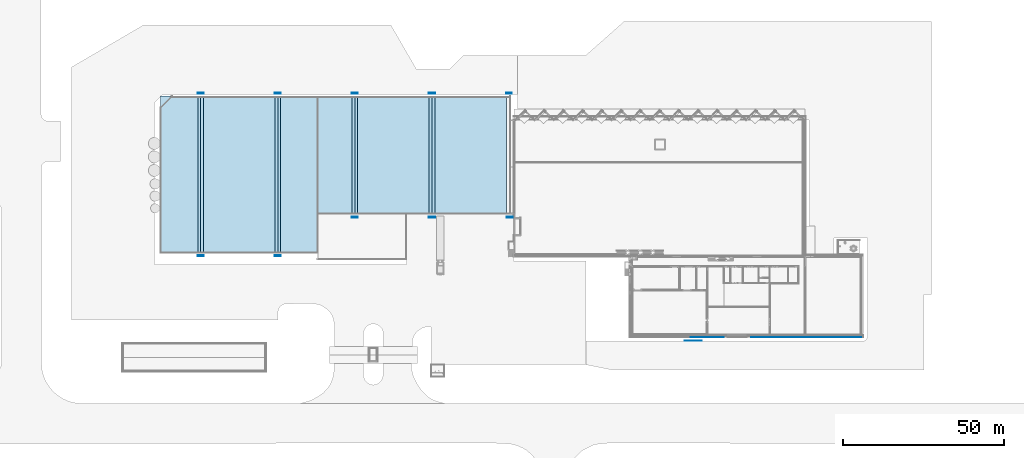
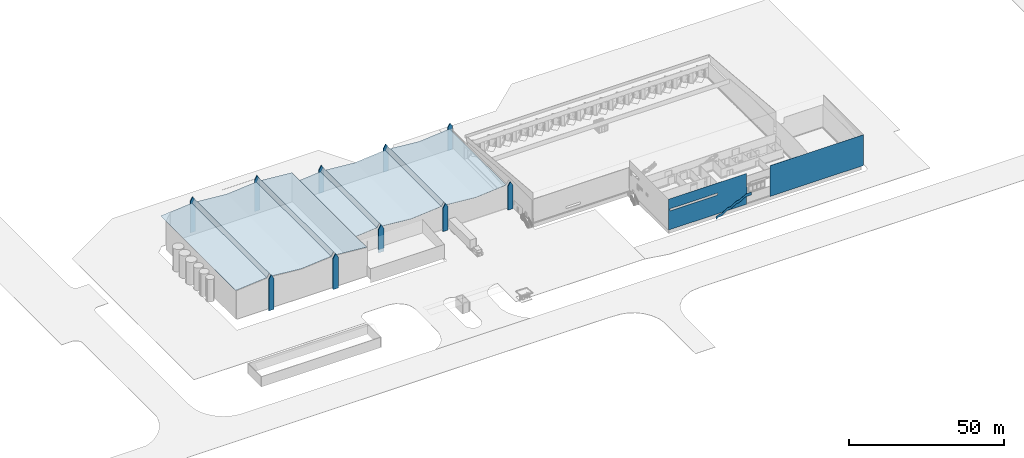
# One storey, part 55 of 64: 6 walls, 2 roofs.
"""IFC2X3 building model written with IfcOpenShell, lengths in millimetres."""

from ifc_helpers import new_model, entity, si_unit, converted_unit, derived_unit, direction, frame, origin, place, context, subcontext, project, spatial, faceted_brep, material, type_object, element, save


model = new_model("IFC2X3")

# Units and contexts
model_context = context("Model", 3, precision=0.01, world=origin(), true_north=direction((4.05803320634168e-15, -1.0)))
body_context = subcontext(model_context, "Body", "Model", "MODEL_VIEW")
ifc_project = project(units=[si_unit("LENGTHUNIT", "METRE", prefix="MILLI"), si_unit("AREAUNIT", "SQUARE_METRE"), si_unit("VOLUMEUNIT", "CUBIC_METRE"), converted_unit("PLANEANGLEUNIT", "DEGREE", entity("IfcRatioMeasure", 0.0174532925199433), si_unit("PLANEANGLEUNIT", "RADIAN"), dimensions=[0, 0, 0, 0, 0, 0, 0]), si_unit("MASSUNIT", "GRAM", prefix="KILO"), derived_unit("MASSDENSITYUNIT", [(si_unit("MASSUNIT", "GRAM", prefix="KILO"), 1), (si_unit("LENGTHUNIT", "METRE"), -3)]), si_unit("TIMEUNIT", "SECOND"), si_unit("FREQUENCYUNIT", "HERTZ"), si_unit("THERMODYNAMICTEMPERATUREUNIT", "DEGREE_CELSIUS"), derived_unit("THERMALTRANSMITTANCEUNIT", [(si_unit("MASSUNIT", "GRAM", prefix="KILO"), 1), (si_unit("THERMODYNAMICTEMPERATUREUNIT", "KELVIN"), -1), (si_unit("TIMEUNIT", "SECOND"), -3)]), derived_unit("VOLUMETRICFLOWRATEUNIT", [(si_unit("LENGTHUNIT", "METRE"), 3), (si_unit("TIMEUNIT", "SECOND"), -1)]), si_unit("ELECTRICCURRENTUNIT", "AMPERE"), si_unit("ELECTRICVOLTAGEUNIT", "VOLT"), si_unit("POWERUNIT", "WATT"), si_unit("FORCEUNIT", "NEWTON", prefix="KILO"), si_unit("ILLUMINANCEUNIT", "LUX"), si_unit("LUMINOUSFLUXUNIT", "LUMEN"), si_unit("LUMINOUSINTENSITYUNIT", "CANDELA"), derived_unit("USERDEFINED", [(si_unit("MASSUNIT", "GRAM", prefix="KILO"), -1), (si_unit("LENGTHUNIT", "METRE"), -2), (si_unit("TIMEUNIT", "SECOND"), 3), (si_unit("LUMINOUSFLUXUNIT", "LUMEN"), 1)]), derived_unit("LINEARVELOCITYUNIT", [(si_unit("LENGTHUNIT", "METRE"), 1), (si_unit("TIMEUNIT", "SECOND"), -1)]), si_unit("PRESSUREUNIT", "PASCAL"), derived_unit("USERDEFINED", [(si_unit("LENGTHUNIT", "METRE"), -2), (si_unit("MASSUNIT", "GRAM", prefix="KILO"), 1), (si_unit("TIMEUNIT", "SECOND"), -2)])], contexts=[model_context])

# Site, building, storey
site_placement = place(None, frame((927466.849349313, 583801.882853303, 0.0), z_axis=(0.0, 0.0, 1.0), x_axis=(-1.0, 0.0, 0.0)))
site = spatial("IfcSite", under=ifc_project, at=site_placement, Name="Surface", CompositionType="ELEMENT")
building_placement = place(site_placement, origin())
building = spatial("IfcBuilding", under=site, at=building_placement, CompositionType="ELEMENT")
storey_placement = place(building_placement, frame((0.0, 0.0, 44170.0)))
storey = spatial("IfcBuildingStorey", under=building, at=storey_placement, Name="Ground FFL", CompositionType="ELEMENT", Elevation=44170.0)

# Walls
ifc_material_1 = material(Name="Orange")
wall_type_1 = type_object("IfcWallType", Name="Basic Wall:Orange wide", PredefinedType="NOTDEFINED")
wall_1_placement = place(storey_placement, frame((53763.0614261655, 11782.6738606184, 0.0), z_axis=(0.0, 0.0, 1.0), x_axis=(-1.0, 0.0, 0.0)))
element("IfcWall", 1, at=wall_1_placement, inside=storey, type_object=wall_type_1, material=ifc_material_1, Name="Basic Wall:Orange wide", ObjectType="Basic Wall:Orange wide", context=body_context, shape_type="Brep", body=[
    faceted_brep([(1900.0, -150.0, 0.0), (1900.0, -150.0, 12267.7813051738), (950.0, -150.0, 13913.2295723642), (0.0, -150.0, 12267.7813051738), (0.0, -150.0, 0.0), (0.0, 150.0, 0.0), (1900.0, 150.0, 0.0), (1900.0, 150.0, 12267.7813051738), (950.0, 150.0, 13913.2295723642), (0.0, 150.0, 12267.7813051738)], [[[0, 1, 2, 3, 4]], [[0, 4, 5, 6]], [[2, 1, 7, 8]], [[3, 2, 8, 9]], [[1, 0, 6, 7]], [[4, 3, 9, 5]], [[6, 5, 9, 8, 7]]]),
    faceted_brep([(24965.5222976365, 150.0, 13913.2295723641), (25915.5222976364, 150.0, 12267.7813051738), (25915.5222976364, 150.0, 0.0), (24015.5222976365, 150.0, 0.0), (24015.5222976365, 150.0, 12267.7813051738), (24965.5222976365, -150.0, 13913.2295723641), (25915.5222976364, -150.0, 12267.7813051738), (24015.5222976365, -150.0, 12267.7813051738), (24015.5222976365, -150.0, 0.0), (25915.5222976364, -150.0, 0.0)], [[[0, 1, 2, 3, 4]], [[5, 6, 1, 0]], [[7, 5, 0, 4]], [[8, 7, 4, 3]], [[9, 8, 3, 2]], [[6, 9, 2, 1]], [[5, 7, 8, 9, 6]]]),
])
wall_2_placement = place(storey_placement, frame((5792.6188476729, -333.364619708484, -1300.0), z_axis=(0.0, 0.0, 1.0), x_axis=(-1.0, 0.0, 0.0)))
element("IfcWall", 2, at=wall_2_placement, inside=storey, type_object=wall_type_1, material=ifc_material_1, Name="Basic Wall:Orange wide", ObjectType="Basic Wall:Orange wide", context=body_context, shape_type="Brep", body=[
    faceted_brep([(1900.0, -150.0, 0.0), (1900.0, -150.0, 9207.78130517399), (950.0, -150.0, 10853.2295723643), (0.0, -150.0, 9207.78130517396), (0.0, -150.0, 0.0), (0.0, 150.0, 0.0), (1900.0, 150.0, 0.0), (1900.0, 150.0, 9207.78130517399), (950.0, 150.0, 10853.2295723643), (0.0, 150.0, 9207.78130517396)], [[[0, 1, 2, 3, 4]], [[0, 4, 5, 6]], [[2, 1, 7, 8]], [[3, 2, 8, 9]], [[1, 0, 6, 7]], [[4, 3, 9, 5]], [[6, 5, 9, 8, 7]]]),
    faceted_brep([(49136.2311651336, 150.0, 10869.6840550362), (50092.193320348, 150.0, 9213.90903209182), (50092.193320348, 150.0, 0.0), (48192.1933203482, 150.0, 0.0), (48192.1933203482, 150.0, 9234.56254359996), (48192.1933203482, -150.0, 9234.56254359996), (49136.2311651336, -150.0, 10869.6840550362), (48192.1933203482, -150.0, 0.0), (50092.193320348, -150.0, 0.0), (50092.193320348, -150.0, 9213.90903209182)], [[[0, 1, 2, 3, 4]], [[5, 6, 0, 4]], [[7, 5, 4, 3]], [[8, 7, 3, 2]], [[9, 8, 2, 1]], [[6, 9, 1, 0]], [[6, 5, 7, 8, 9]]]),
    faceted_brep([(24966.7647407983, -150.0, 10869.6840550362), (25922.7268960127, -150.0, 9213.90903209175), (25922.7268960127, 150.0, 9213.90903209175), (24966.7647407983, 150.0, 10869.6840550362), (24022.7268960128, -150.0, 9234.56254359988), (24022.7268960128, 150.0, 9234.56254359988), (24022.7268960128, -150.0, 0.0), (24022.7268960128, 150.0, 0.0), (25922.7268960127, -150.0, 0.0), (25922.7268960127, 150.0, 0.0)], [[[0, 1, 2, 3]], [[4, 0, 3, 5]], [[6, 4, 5, 7]], [[8, 6, 7, 9]], [[1, 8, 9, 2]], [[3, 2, 9, 7, 5]], [[0, 4, 6, 8, 1]]]),
])
wall_3_placement = place(storey_placement, frame((53763.0614261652, -38887.3261393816, 0.0), z_axis=(0.0, 0.0, 1.0), x_axis=(-1.0, 0.0, 0.0)))
element("IfcWall", 3, at=wall_3_placement, inside=storey, type_object=wall_type_1, material=ifc_material_1, Name="Basic Wall:Orange wide", ObjectType="Basic Wall:Orange wide", context=body_context, shape_type="Brep", body=[
    faceted_brep([(1900.0, -150.0, 0.0), (1900.0, -150.0, 12267.7813051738), (950.0, -150.0, 13913.2295723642), (0.0, -150.0, 12267.7813051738), (0.0, -150.0, 0.0), (0.0, 150.0, 0.0), (1900.0, 150.0, 0.0), (1900.0, 150.0, 12267.7813051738), (950.0, 150.0, 13913.2295723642), (0.0, 150.0, 12267.7813051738)], [[[0, 1, 2, 3, 4]], [[0, 4, 5, 6]], [[2, 1, 7, 8]], [[3, 2, 8, 9]], [[1, 0, 6, 7]], [[4, 3, 9, 5]], [[6, 5, 9, 8, 7]]]),
    faceted_brep([(24965.5222976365, 150.0, 13913.2295723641), (25915.5222976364, 150.0, 12267.7813051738), (25915.5222976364, 150.0, 0.0), (24015.5222976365, 150.0, 0.0), (24015.5222976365, 150.0, 12267.7813051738), (24965.5222976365, -150.0, 13913.2295723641), (25915.5222976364, -150.0, 12267.7813051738), (24015.5222976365, -150.0, 12267.7813051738), (24015.5222976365, -150.0, 0.0), (25915.5222976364, -150.0, 0.0)], [[[0, 1, 2, 3, 4]], [[5, 6, 1, 0]], [[7, 5, 0, 4]], [[8, 7, 4, 3]], [[9, 8, 3, 2]], [[6, 9, 2, 1]], [[5, 7, 8, 9, 6]]]),
])
wall_4_placement = place(storey_placement, frame((5799.46738516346, -38887.3261393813, -1300.0), z_axis=(0.0, 0.0, 1.0), x_axis=(-1.0, 0.0, 0.0)))
element("IfcWall", 4, at=wall_4_placement, inside=storey, type_object=wall_type_1, material=ifc_material_1, Name="Basic Wall:Orange wide", ObjectType="Basic Wall:Orange wide", context=body_context, shape_type="Brep", body=[
    faceted_brep([(25937.4061608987, -150.0, 0.0), (25937.4061608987, -150.0, 9200.34581438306), (24987.4061608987, -150.0, 10845.7940815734), (24037.4061608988, -150.0, 9200.34581438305), (24037.4061608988, -150.0, 0.0), (24037.4061608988, 150.0, 0.0), (25937.4061608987, 150.0, 0.0), (25937.4061608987, 150.0, 9200.34581438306), (24987.4061608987, 150.0, 10845.7940815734), (24037.4061608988, 150.0, 9200.34581438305)], [[[0, 1, 2, 3, 4]], [[0, 4, 5, 6]], [[2, 1, 7, 8]], [[3, 2, 8, 9]], [[1, 0, 6, 7]], [[4, 3, 9, 5]], [[6, 5, 9, 8, 7]]]),
    faceted_brep([(48966.5146438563, 150.0, 10684.8130327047), (49866.5232199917, 150.0, 9125.95245159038), (49866.5232199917, 150.0, 0.0), (48036.4962136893, 150.0, 0.0), (48036.4962136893, 150.0, 9073.97385967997), (48966.5146438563, -150.0, 10684.8130327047), (49866.5232199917, -150.0, 9125.95245159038), (49866.5232199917, -150.0, 0.0), (48036.4962136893, -150.0, 0.0), (48036.4962136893, -150.0, 9073.97385967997)], [[[0, 1, 2, 3, 4]], [[5, 6, 1, 0]], [[7, 8, 3, 2]], [[6, 7, 2, 1]], [[9, 5, 0, 4]], [[8, 9, 4, 3]], [[5, 9, 8, 7, 6]]]),
    faceted_brep([(1900.0, -150.0, 9200.34581438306), (1900.0, -150.0, 0.0), (1900.0, 150.0, 0.0), (1900.0, 150.0, 9200.34581438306), (950.0, -150.0, 10845.7940815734), (950.0, 150.0, 10845.7940815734), (0.0, -150.0, 9200.34581438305), (0.0, 150.0, 9200.34581438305), (0.0, -150.0, 0.0), (0.0, 150.0, 0.0)], [[[0, 1, 2, 3]], [[4, 0, 3, 5]], [[6, 4, 5, 7]], [[8, 6, 7, 9]], [[1, 8, 9, 2]], [[2, 9, 7, 5, 3]], [[1, 0, 4, 6, 8]]]),
])
ifc_material_2 = material(Name="Cladding(2)")
wall_type_2 = type_object("IfcWallType", Name="Basic Wall:Cladding 3", PredefinedType="NOTDEFINED")
wall_5_placement = place(storey_placement, frame((-153476.690247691, 37046.0854127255, 0.0)))
element("IfcWall", 5, at=wall_5_placement, inside=storey, type_object=wall_type_2, material=ifc_material_2, Name="Basic Wall:Cladding 3", ObjectType="Basic Wall:Cladding 3", context=body_context, shape_type="Brep", body=[
    faceted_brep([(0.0, -19.0, 0.0), (38.0, -19.0, 0.0), (34866.289531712, -19.0, 0.0), (34866.289531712, -19.0, 12150.0), (0.0, -19.0, 12150.0), (0.0, 19.0, 12150.0), (0.0, 19.0, 0.0), (34866.289531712, 19.0, 0.0), (34866.289531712, -17.8076615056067, 0.0), (34866.289531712, 19.0, 12150.0)], [[[0, 1, 2, 3, 4]], [[0, 4, 5, 6]], [[2, 1, 0, 6, 7, 8]], [[3, 2, 8, 7, 9]], [[4, 3, 9, 5]], [[6, 5, 9, 7]]]),
    faceted_brep([(72714.0984678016, 19.0, 12150.0), (72714.0984678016, 19.0, 0.0), (43558.8183029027, 19.0, 0.0), (43558.8183029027, 19.0, 4000.0), (43508.8183029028, 19.0, 4000.0), (43508.8183029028, 19.0, 6859.35796848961), (43558.8183029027, 19.0, 6859.35796848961), (43558.8183029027, 19.0, 12150.0), (54389.8836050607, 19.0, 8200.0), (54389.8836050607, 19.0, 7400.0), (72178.0, 19.0, 7400.0), (72178.0, 19.0, 8200.0), (72714.0984678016, -19.0, 12150.0), (72714.0984678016, -19.0, 0.0), (43558.8183029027, -19.0, 12150.0), (54389.8836050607, -19.0, 7400.0), (72178.0, -19.0, 7400.0), (54389.8836050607, -19.0, 8200.0), (72178.0, -19.0, 8200.0), (43558.8183029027, -19.0, 0.0), (43558.8183029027, -19.0, 4000.0), (43558.8183029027, -17.8076615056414, 4000.0), (43558.8183029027, -17.8076615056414, 0.0), (43558.8183029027, -19.0, 6859.35796848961), (43558.8183029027, -17.8076615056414, 6859.35796848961), (43508.8183029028, -19.0, 4000.0), (43508.8183029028, -19.0, 6859.35796848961), (43508.8183029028, -17.8076615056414, 6859.35796848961), (43508.8183029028, -17.8076615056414, 4000.0), (72676.0984678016, -19.0, 0.0)], [[[0, 1, 2, 3, 4, 5, 6, 7], [8, 9, 10, 11]], [[12, 13, 1, 0]], [[14, 12, 0, 7]], [[15, 16, 10, 9]], [[17, 15, 9, 8]], [[18, 17, 8, 11]], [[16, 18, 11, 10]], [[19, 20, 21, 3, 2, 22]], [[23, 14, 7, 6, 24]], [[25, 26, 27, 5, 4, 28]], [[13, 29, 19, 22, 2, 1]], [[25, 28, 4, 3, 21, 20]], [[23, 24, 6, 5, 27, 26]], [[12, 14, 23, 26, 25, 20, 19, 29, 13], [17, 18, 16, 15]]]),
])
ifc_material_3 = material(Name="Aluminum, Anodized Silver")
wall_type_3 = type_object("IfcWallType", Name="Basic Wall:Orange", PredefinedType="NOTDEFINED")
wall_6_placement = place(storey_placement, frame((-111117.871944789, 38209.2777512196, -1115.79987716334)))
element("IfcWall", 6, at=wall_6_placement, inside=storey, type_object=wall_type_3, material=ifc_material_3, Name="Basic Wall:Orange", ObjectType="Basic Wall:Orange", context=body_context, shape_type="Brep", body=[
    faceted_brep([(13287.5, -19.0, 0.0), (13287.4999999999, -19.0, 1031.05450679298), (12220.0, -19.0, 1693.29987716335), (11290.0, -19.0, 1693.29987716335), (8860.0, -19.0, 3200.79987716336), (7930.0, -19.0, 3200.79987716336), (5500.0, -19.0, 4708.29987716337), (4570.0, -19.0, 4708.29987716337), (2140.0, -19.0, 6215.79987716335), (0.0, -19.0, 6215.79987716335), (0.0, -19.0, 5115.79987716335), (2251.13601890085, -19.0, 5115.79987716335), (4600.53900397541, -19.0, 3658.29987716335), (5530.53900397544, -19.0, 3658.29987716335), (7960.53900397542, -19.0, 2150.79987716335), (8890.53900397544, -19.0, 2150.79987716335), (11320.5390039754, -19.0, 643.299877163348), (12250.5390039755, -19.0, 643.299877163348), (13287.5, 19.0, 0.0), (12250.5390039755, 19.0, 643.299877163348), (11320.5390039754, 19.0, 643.299877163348), (8890.53900397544, 19.0, 2150.79987716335), (7960.53900397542, 19.0, 2150.79987716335), (5530.53900397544, 19.0, 3658.29987716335), (4600.53900397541, 19.0, 3658.29987716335), (2251.13601890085, 19.0, 5115.79987716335), (0.0, 19.0, 5115.79987716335), (0.0, 19.0, 6215.79987716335), (2140.0, 19.0, 6215.79987716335), (4570.0, 19.0, 4708.29987716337), (5500.0, 19.0, 4708.29987716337), (7930.0, 19.0, 3200.79987716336), (8860.0, 19.0, 3200.79987716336), (11290.0, 19.0, 1693.29987716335), (12220.0, 19.0, 1693.29987716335), (13287.4999999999, 19.0, 1031.05450679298)], [[[0, 1, 2, 3, 4, 5, 6, 7, 8, 9, 10, 11, 12, 13, 14, 15, 16, 17]], [[18, 19, 20, 21, 22, 23, 24, 25, 26, 27, 28, 29, 30, 31, 32, 33, 34, 35]], [[1, 0, 18, 35]], [[2, 1, 35, 34]], [[3, 2, 34, 33]], [[4, 3, 33, 32]], [[5, 4, 32, 31]], [[6, 5, 31, 30]], [[7, 6, 30, 29]], [[8, 7, 29, 28]], [[9, 8, 28, 27]], [[10, 9, 27, 26]], [[11, 10, 26, 25]], [[12, 11, 25, 24]], [[13, 12, 24, 23]], [[14, 13, 23, 22]], [[15, 14, 22, 21]], [[16, 15, 21, 20]], [[17, 16, 20, 19]], [[0, 17, 19, 18]]]),
])

# Roofs
ifc_material_4 = material(Name="Aluminum")
roof_1_placement = place(storey_placement, frame((16451.5278414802, -37947.3261393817, 11188.1329101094)))
element("IfcRoof", 7, at=roof_1_placement, inside=storey, material=ifc_material_4, Name="Basic Roof:50", ObjectType="Basic Roof:50", ShapeType="NOTDEFINED", context=body_context, shape_type="Brep", body=[
    faceted_brep([(48870.8639401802, 0.0, 70.6888564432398), (37226.7052561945, 0.0, 1089.42073758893), (36380.9990294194, 0.0, 2554.2268906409), (35534.5049702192, 0.0, 1088.05617180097), (24213.0209171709, 0.0, 97.554662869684), (13245.4098607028, 0.0, 1057.09629627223), (12381.0237438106, 0.0, 2554.25696808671), (11516.623514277, 0.0, 1057.07185246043), (0.0, 0.0, 50.1907297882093), (0.0, 0.0, 0.0), (11546.9096596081, 0.0, 1009.52899493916), (12381.0237438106, 0.0, 2454.25696808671), (13215.1227667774, 0.0, 1009.55508176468), (24213.0209171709, 0.0, 47.3636709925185), (35564.7920641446, 0.0, 1040.51495729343), (36380.9990294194, 0.0, 2454.2268906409), (37196.4181622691, 0.0, 1041.87952308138), (48870.8639401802, 0.0, 20.4978645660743), (48870.8639401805, 48480.1750456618, 70.6888564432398), (48870.8639401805, 48480.1750456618, 20.4978645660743), (37196.4181622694, 48480.1750456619, 1041.87952308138), (36380.9990294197, 48480.1750456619, 2454.2268906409), (35564.7920641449, 48480.1750456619, 1040.51495729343), (24213.0209171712, 48480.1750456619, 47.3636709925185), (13215.1227667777, 48480.175045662, 1009.55508176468), (12381.0237438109, 48480.175045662, 2454.25696808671), (11546.9096596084, 48480.175045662, 1009.52899493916), (0.0, 48480.1750456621, 0.0), (0.0, 48480.1750456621, 50.1907297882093), (11516.6235142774, 48480.175045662, 1057.07185246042), (12381.0237438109, 48480.175045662, 2554.25696808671), (13245.4098607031, 48480.175045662, 1057.09629627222), (24213.0209171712, 48480.1750456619, 97.554662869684), (35534.5049702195, 48480.1750456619, 1088.05617180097), (36380.9990294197, 48480.1750456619, 2554.2268906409), (37226.7052561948, 48480.1750456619, 1089.42073758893)], [[[0, 1, 2, 3, 4, 5, 6, 7, 8, 9, 10, 11, 12, 13, 14, 15, 16, 17]], [[18, 19, 20, 21, 22, 23, 24, 25, 26, 27, 28, 29, 30, 31, 32, 33, 34, 35]], [[1, 0, 18, 35]], [[2, 1, 35, 34]], [[3, 2, 34, 33]], [[4, 3, 33, 32]], [[5, 4, 32, 31]], [[6, 5, 31, 30]], [[7, 6, 30, 29]], [[8, 7, 29, 28]], [[9, 8, 28, 27]], [[10, 9, 27, 26]], [[11, 10, 26, 25]], [[12, 11, 25, 24]], [[13, 12, 24, 23]], [[14, 13, 23, 22]], [[15, 14, 22, 21]], [[16, 15, 21, 20]], [[17, 16, 20, 19]], [[0, 17, 19, 18]]]),
])
roof_2_placement = place(storey_placement, frame((-42429.7182035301, -37947.3261393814, 6863.3570690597)))
element("IfcRoof", 8, at=roof_2_placement, inside=storey, material=ifc_material_4, Name="Basic Roof:50", ObjectType="Basic Roof:50", ShapeType="NOTDEFINED", context=body_context, shape_type="Brep", body=[
    faceted_brep([(58824.5924146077, 0.0, 88.4482084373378), (48126.8283360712, 0.0, 1024.38129038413), (47262.4723848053, 0.0, 2521.48971380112), (46398.1520249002, 0.0, 1024.44293642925), (35262.4013426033, 0.0, 50.1909918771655), (24126.8080094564, 0.0, 1024.42917016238), (23262.4733003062, 0.0, 2521.50080115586), (22397.7005586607, 0.0, 1023.67047562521), (11271.4375086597, 0.0, 50.9179829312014), (0.0, 0.0, 1035.37157040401), (0.0, 0.0, 985.181223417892), (11271.4396989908, 0.0, 0.727444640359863), (22427.9867039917, 0.0, 976.127618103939), (23262.4733003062, 0.0, 2421.50080115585), (24096.520915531, 0.0, 976.887955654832), (35262.4013426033, 0.0, 0.0), (46428.4391188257, 0.0, 976.901721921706), (47262.4723848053, 0.0, 2421.48971380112), (48096.5412421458, 0.0, 976.840075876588), (58824.5924146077, 0.0, 38.2572165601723), (58824.5924146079, 36629.9626004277, 88.4482084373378), (58824.5924146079, 36629.9626004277, 38.2572165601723), (48096.541242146, 36629.9626004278, 976.840075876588), (47262.4723848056, 36629.9626004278, 2421.48971380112), (46428.4391188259, 36629.9626004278, 976.901721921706), (35262.4013426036, 36629.9626004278, 0.0), (24096.5209155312, 36629.9626004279, 976.887955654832), (23262.4733003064, 36629.9626004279, 2421.50080115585), (22427.9867039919, 36629.9626004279, 976.127618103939), (11271.439698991, 36629.962600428, 0.7274446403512), (0.0, 36629.9626004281, 985.181223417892), (0.0, 36629.9626004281, 1035.37157040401), (11271.43750866, 36629.962600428, 50.9179829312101), (22397.7005586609, 36629.9626004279, 1023.67047562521), (23262.4733003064, 36629.9626004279, 2521.50080115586), (24126.8080094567, 36629.9626004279, 1024.42917016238), (35262.4013426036, 36629.9626004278, 50.1909918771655), (46398.1520249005, 36629.9626004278, 1024.44293642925), (47262.4723848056, 36629.9626004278, 2521.48971380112), (48126.8283360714, 36629.9626004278, 1024.38129038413)], [[[0, 1, 2, 3, 4, 5, 6, 7, 8, 9, 10, 11, 12, 13, 14, 15, 16, 17, 18, 19]], [[20, 21, 22, 23, 24, 25, 26, 27, 28, 29, 30, 31, 32, 33, 34, 35, 36, 37, 38, 39]], [[1, 0, 20, 39]], [[2, 1, 39, 38]], [[3, 2, 38, 37]], [[4, 3, 37, 36]], [[5, 4, 36, 35]], [[6, 5, 35, 34]], [[7, 6, 34, 33]], [[8, 7, 33, 32]], [[12, 11, 29, 28]], [[13, 12, 28, 27]], [[14, 13, 27, 26]], [[15, 14, 26, 25]], [[16, 15, 25, 24]], [[17, 16, 24, 23]], [[18, 17, 23, 22]], [[19, 18, 22, 21]], [[0, 19, 21, 20]], [[9, 8, 32, 31]], [[11, 10, 30, 29]], [[10, 9, 31, 30]]]),
])

save(model, "model.ifc")
